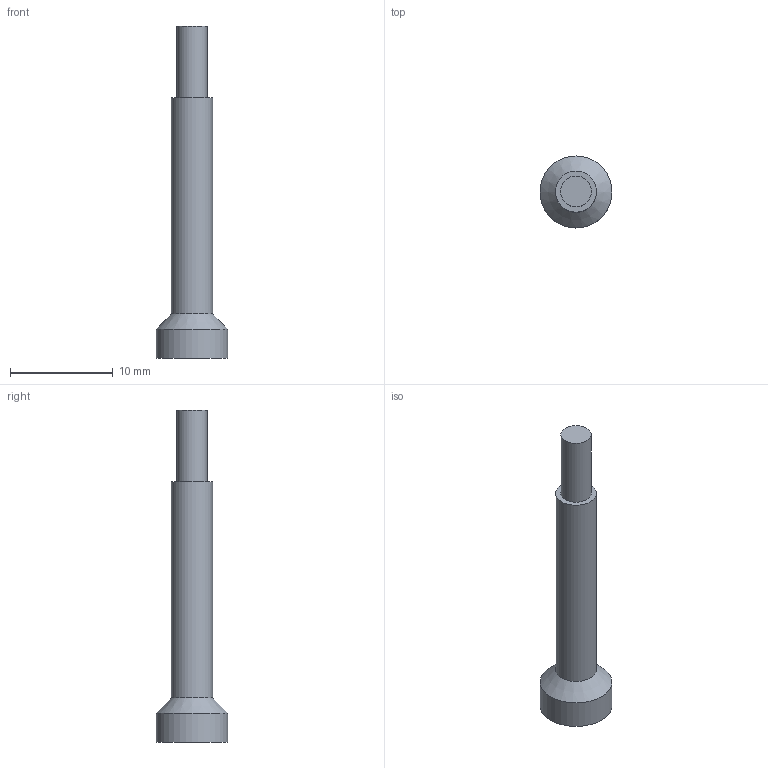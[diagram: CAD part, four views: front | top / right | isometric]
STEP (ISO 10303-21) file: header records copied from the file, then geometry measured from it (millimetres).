
FILE_DESCRIPTION(('Open CASCADE Model'),'2;1');
FILE_NAME('Open CASCADE Shape Model','2026-11-14T14:45:59',('Author'),( 'Open CASCADE'),'Open CASCADE STEP processor 8.0','Open CASCADE 8.0' ,'Unknown');
FILE_SCHEMA(('AUTOMOTIVE_DESIGN { 1 0 10303 214 1 1 1 1 }'));
Length unit declared in the file: millimetre
Products named in the file (1): Open CASCADE STEP translator 8.0 5
Bounding box: 7 x 7 x 32.3 mm (x, y, z)
Volume: 452.8 mm3; surface area: 488.8 mm2
Topology: 1 solids, 1 shells, 14 faces, 28 edges, 18 vertices
Faces by surface type: plane 10, cylinder 3, cone 1
Full cylindrical faces by diameter (mm): 3 x1, 4 x1, 7 x1
Entity records: 724 total; most frequent: CARTESIAN_POINT 129, DIRECTION 108, LINE 62, VECTOR 62, ORIENTED_EDGE 56, PCURVE 56, DEFINITIONAL_REPRESENTATION 56, EDGE_CURVE 28
